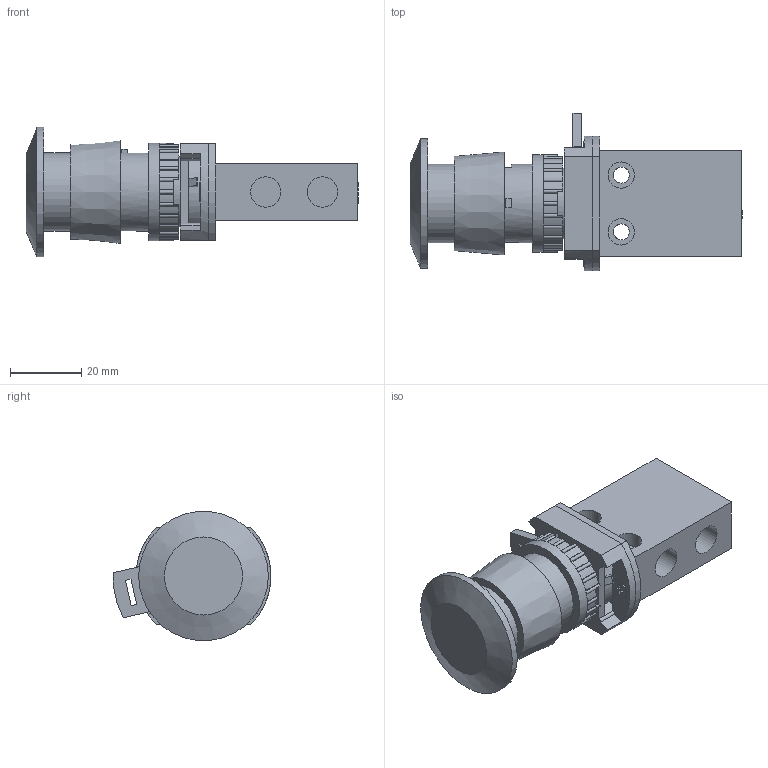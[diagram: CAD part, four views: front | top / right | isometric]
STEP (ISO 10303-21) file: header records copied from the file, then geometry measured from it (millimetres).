
FILE_DESCRIPTION (( 'STEP AP214' ), '1' );
FILE_NAME ('18-T-23-012---T-28-311_Airtec.step', '2018-11-15T13:09:56', ( '' ), ( '' ), 'SwSTEP 2.0', 'SolidWorks 2010', '' );
FILE_SCHEMA (( 'AUTOMOTIVE_DESIGN' ));
Length unit declared in the file: millimetre
Products named in the file (3): 18-T-23-012-Airtec; T-28-311_161115; 18-T-23-012---T-28-311_Airtec
Assembly tree (2 placements, depth 2):
  18-T-23-012---T-28-311_Airtec
    18-T-23-012-Airtec
    T-28-311_161115
Bounding box: 93.5 x 44.48 x 36.5 mm (x, y, z)
Volume: 47002.3 mm3; surface area: 17431.8 mm2
Topology: 2 solids, 2 shells, 429 faces, 1140 edges, 737 vertices
Faces by surface type: plane 206, cylinder 158, cone 48, torus 17
Full cylindrical faces by diameter (mm): 2.013 x1, 2.459 x4, 2.693 x2, 3 x1, 3.2 x2, 4.5 x2, 4.7 x1, 5.5 x3, 5.7 x2, 6 x1, 7.4 x4, 8.566 x3, 10 x1, 10.5 x1, 16 x1, 20 x1, 20.3 x1, 22 x2, 27.4 x1, 36.5 x1
Entity records: 13548 total; most frequent: CARTESIAN_POINT 2877, DIRECTION 2322, ORIENTED_EDGE 2130, EDGE_CURVE 1065, AXIS2_PLACEMENT_3D 921, VERTEX_POINT 718, EDGE_LOOP 521, CIRCLE 487
